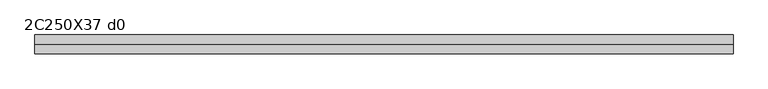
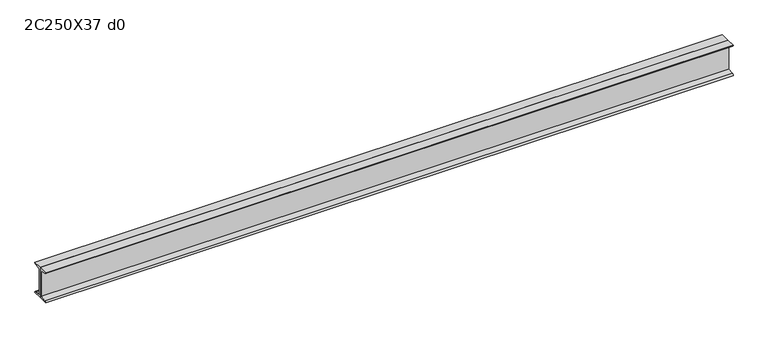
"""IFC4 building model written with IfcOpenShell, lengths in millimetres: beam geometry, Profilato a doppia C : 2C250X37 d0."""

from ifc_helpers import new_model, si_unit, point, frame, frame_2d, origin, place, context, project, spatial, polyline, circle_curve, trimmed, segment, composite_curve, outline, extrude, source, transform, mapped, element, save


def beam_2c250x37_d0_c14ff850(model_context):
    return source(origin(), model_context, "Body", "SweptSolid", [
        extrude(outline(composite_curve([segment(polyline([(0.5, 127.0), (73.8, 127.0)]), True, "CONTINUOUS"), segment(trimmed(circle_curve(frame_2d((62.7, 127.0)), 11.1), [point((73.8, 127.0))], [point((62.7, 115.9))], False, "CARTESIAN"), True, "CONTINUOUS"), segment(polyline([(62.7, 115.9), (13.9, 108.1708393), (13.9, -108.1708393), (62.7, -115.9)]), True, "CONTINUOUS"), segment(trimmed(circle_curve(frame_2d((62.7, -127.0)), 11.1), [point((62.7, -115.9))], [point((73.8, -127.0))], False, "CARTESIAN"), True, "CONTINUOUS"), segment(polyline([(73.8, -127.0), (0.5, -127.0), (0.5, 127.0)]), True, "CONTINUOUS")], self_intersect=False)), frame((-2750.0, 0.0, 0.0), z_axis=(1.0, 0.0, 0.0), x_axis=(0.0, 1.0, 0.0)), (0.0, 0.0, 1.0), 5500.0),
        extrude(outline(composite_curve([segment(polyline([(-0.5, 127.0), (-0.5, -127.0), (-73.8, -127.0)]), True, "CONTINUOUS"), segment(trimmed(circle_curve(frame_2d((-62.7, -127.0)), 11.1), [point((-73.8, -127.0))], [point((-62.7, -115.9))], False, "CARTESIAN"), True, "CONTINUOUS"), segment(polyline([(-62.7, -115.9), (-13.9, -108.1708393), (-13.9, 108.1708393), (-62.7, 115.9)]), True, "CONTINUOUS"), segment(trimmed(circle_curve(frame_2d((-62.7, 127.0)), 11.1), [point((-62.7, 115.9))], [point((-73.8, 127.0))], False, "CARTESIAN"), True, "CONTINUOUS"), segment(polyline([(-73.8, 127.0), (-0.5, 127.0)]), True, "CONTINUOUS")], self_intersect=False)), frame((-2750.0, 0.0, 0.0), z_axis=(1.0, 0.0, 0.0), x_axis=(0.0, 1.0, 0.0)), (0.0, 0.0, 1.0), 5500.0),
    ])


if __name__ == "__main__":
    model = new_model("IFC4")
    model_context = context("Model", 3, world=origin())
    ifc_project = project(units=[si_unit("LENGTHUNIT", "METRE", prefix="MILLI")], contexts=[model_context])
    site = spatial("IfcSite", under=ifc_project)
    building = spatial("IfcBuilding", under=site)
    placement = place(None, origin())
    beam_2c250x37_d0_shape = beam_2c250x37_d0_c14ff850(model_context)
    element("IfcBeam", 1, ObjectType="Profilato a doppia C : 2C250X37 d0", at=placement, inside=building, context=model_context, shape_type="MappedRepresentation", body=[
        mapped(beam_2c250x37_d0_shape, transform((0.0, 0.0, 0.0), x_axis=(1.0, 0.0, 0.0), y_axis=(0.0, 1.0, 0.0), z_axis=(0.0, 0.0, 1.0))),
    ])
    save(model, "model.ifc")
